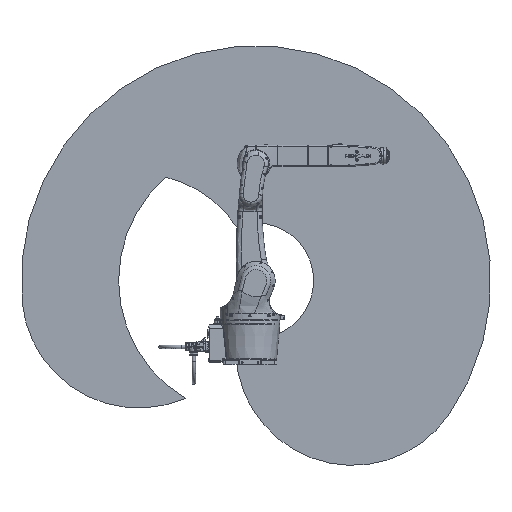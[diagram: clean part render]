
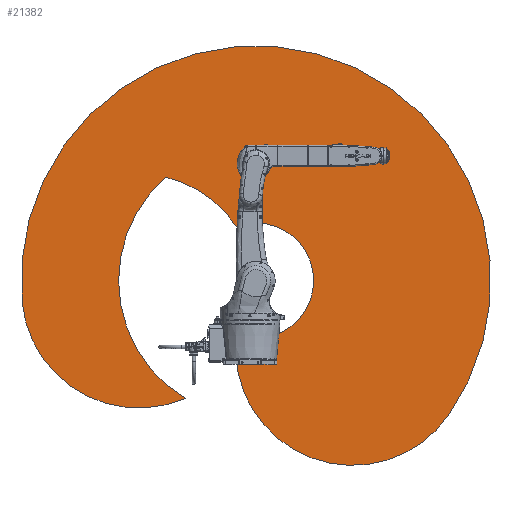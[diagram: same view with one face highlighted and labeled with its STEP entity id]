
A CAD part, front view. The second image highlights one B-rep face of the part: STEP entity #21382.
In plain terms, the highlighted planar face has unit normal (0, -1, 0).
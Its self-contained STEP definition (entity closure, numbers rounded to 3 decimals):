
#7192=CIRCLE('',#74136,1176.06);
#7193=CIRCLE('',#74137,586.066);
#7194=CIRCLE('',#74138,687.735);
#7195=CIRCLE('',#74139,586.066);
#7196=CIRCLE('',#74140,288.759);
#7197=CIRCLE('',#74141,586.057);
#17043=PLANE('',#74142);
#21382=ADVANCED_FACE('',(#25178),#17043,.T.);
#25178=FACE_OUTER_BOUND('',#30283,.T.);
#30283=EDGE_LOOP('',(#49106,#49107,#49108,#49109,#49110,#49111));
#49106=ORIENTED_EDGE('',*,*,#64583,.T.);
#49107=ORIENTED_EDGE('',*,*,#64584,.T.);
#49108=ORIENTED_EDGE('',*,*,#64585,.T.);
#49109=ORIENTED_EDGE('',*,*,#64586,.T.);
#49110=ORIENTED_EDGE('',*,*,#64587,.T.);
#49111=ORIENTED_EDGE('',*,*,#64588,.T.);
#55166=VERTEX_POINT('',#190804);
#55167=VERTEX_POINT('',#190805);
#55168=VERTEX_POINT('',#190807);
#55169=VERTEX_POINT('',#190809);
#55170=VERTEX_POINT('',#190811);
#55171=VERTEX_POINT('',#190813);
#64583=EDGE_CURVE('',#55166,#55167,#7192,.T.);
#64584=EDGE_CURVE('',#55167,#55168,#7193,.T.);
#64585=EDGE_CURVE('',#55168,#55169,#7194,.T.);
#64586=EDGE_CURVE('',#55169,#55170,#7195,.T.);
#64587=EDGE_CURVE('',#55170,#55171,#7196,.T.);
#64588=EDGE_CURVE('',#55171,#55166,#7197,.T.);
#74136=AXIS2_PLACEMENT_3D('',#190803,#90690,#90691);
#74137=AXIS2_PLACEMENT_3D('',#190806,#90692,#90693);
#74138=AXIS2_PLACEMENT_3D('',#190808,#90694,#90695);
#74139=AXIS2_PLACEMENT_3D('',#190810,#90696,#90697);
#74140=AXIS2_PLACEMENT_3D('',#190812,#90698,#90699);
#74141=AXIS2_PLACEMENT_3D('',#190814,#90700,#90701);
#74142=AXIS2_PLACEMENT_3D('',#190815,#90702,#90703);
#90690=DIRECTION('',(0.,-1.,0.));
#90691=DIRECTION('',(1.,0.,0.));
#90692=DIRECTION('',(0.,-1.,0.));
#90693=DIRECTION('',(1.,0.,0.));
#90694=DIRECTION('',(0.,1.,0.));
#90695=DIRECTION('',(1.,0.,0.));
#90696=DIRECTION('',(0.,1.,0.));
#90697=DIRECTION('',(1.,0.,0.));
#90698=DIRECTION('',(0.,1.,0.));
#90699=DIRECTION('',(1.,0.,0.));
#90700=DIRECTION('',(0.,-1.,0.));
#90701=DIRECTION('',(1.,0.,0.));
#90702=DIRECTION('',(0.,-1.,0.));
#90703=DIRECTION('',(0.,0.,-1.));
#190803=CARTESIAN_POINT('',(-4482.319,-4808.41,0.));
#190804=CARTESIAN_POINT('',(-3518.951,-4808.41,-674.565));
#190805=CARTESIAN_POINT('',(-5653.905,-4808.41,-102.483));
#190806=CARTESIAN_POINT('',(-5070.069,-4808.41,-51.412));
#190807=CARTESIAN_POINT('',(-4837.077,-4808.41,-589.174));
#190808=CARTESIAN_POINT('',(-4482.319,-4808.41,0.));
#190809=CARTESIAN_POINT('',(-4933.981,-4808.41,518.634));
#190810=CARTESIAN_POINT('',(-5070.069,-4808.41,-51.412));
#190811=CARTESIAN_POINT('',(-4580.923,-4808.41,271.402));
#190812=CARTESIAN_POINT('',(-4482.32,-4808.41,0.));
#190813=CARTESIAN_POINT('',(-4581.22,-4808.41,-271.294));
#190814=CARTESIAN_POINT('',(-3999.019,-4808.41,-338.414));
#190815=CARTESIAN_POINT('',(-4776.194,-4808.41,-25.706));
